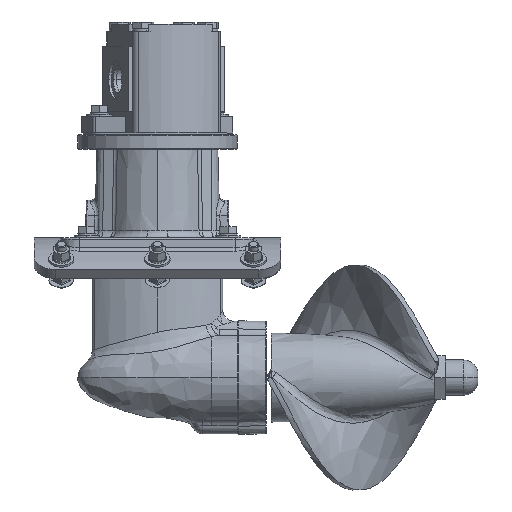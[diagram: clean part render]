
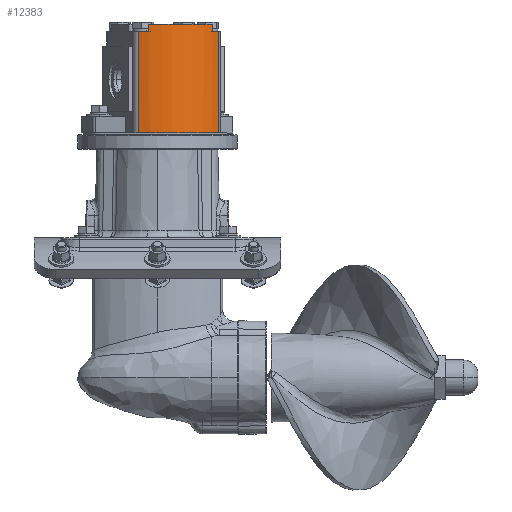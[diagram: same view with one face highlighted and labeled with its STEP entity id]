
A CAD part, top view. The second image highlights one B-rep face of the part: STEP entity #12383.
In plain terms, the highlighted cylindrical face has radius 63.093 mm (diameter 126.186 mm), a partial arc.
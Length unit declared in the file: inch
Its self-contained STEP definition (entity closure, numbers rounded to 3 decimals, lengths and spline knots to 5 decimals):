
#1245 = VECTOR ( 'NONE', #47232, 39.37008 ) ;
#1482 = VECTOR ( 'NONE', #49812, 39.37008 ) ;
#2390 = LINE ( 'NONE', #24832, #1245 ) ;
#3198 = CARTESIAN_POINT ( 'NONE',  ( -6.68456, 8.4275, 0.13722 ) ) ;
#4567 = ORIENTED_EDGE ( 'NONE', *, *, #12316, .T. ) ;
#4990 = LINE ( 'NONE', #27394, #1482 ) ;
#8992 = DIRECTION ( 'NONE',  ( 0., -1., 0. ) ) ;
#10736 = CARTESIAN_POINT ( 'NONE',  ( -4.61943, 11.9115, 1.51758 ) ) ;
#11616 = LINE ( 'NONE', #34024, #56240 ) ;
#11657 = CARTESIAN_POINT ( 'NONE',  ( -6.68456, 11.9115, 0.13722 ) ) ;
#12316 = EDGE_CURVE ( 'NONE', #27390, #59107, #2390, .T. ) ;
#12383 = ADVANCED_FACE ( 'NONE', ( #14529 ), #36897, .T. ) ;
#12760 = VERTEX_POINT ( 'NONE', #19584 ) ;
#13080 = CARTESIAN_POINT ( 'NONE',  ( -6.68456, 12.1775, 0.13722 ) ) ;
#14529 = FACE_OUTER_BOUND ( 'NONE', #36830, .T. ) ;
#14745 = VERTEX_POINT ( 'NONE', #51284 ) ;
#15931 = VERTEX_POINT ( 'NONE', #10736 ) ;
#16855 = CARTESIAN_POINT ( 'NONE',  ( -6.68456, 11.9115, 0.13722 ) ) ;
#19427 = CARTESIAN_POINT ( 'NONE',  ( -7.37926, 12.1775, 2.52207 ) ) ;
#19584 = CARTESIAN_POINT ( 'NONE',  ( -7.37926, 8.4275, 2.52207 ) ) ;
#20936 = EDGE_CURVE ( 'NONE', #27390, #15931, #64735, .T. ) ;
#21514 = ORIENTED_EDGE ( 'NONE', *, *, #67436, .T. ) ;
#21672 = CARTESIAN_POINT ( 'NONE',  ( -4.84082, 12.1775, 1.80179 ) ) ;
#22028 = EDGE_CURVE ( 'NONE', #15931, #57573, #4990, .T. ) ;
#24832 = CARTESIAN_POINT ( 'NONE',  ( -4.84082, 12.0445, 1.80179 ) ) ;
#25629 = DIRECTION ( 'NONE',  ( 0., 1., 0. ) ) ;
#26969 = CIRCLE ( 'NONE', #68027, 2.48398 ) ;
#27390 = VERTEX_POINT ( 'NONE', #53577 ) ;
#27394 = CARTESIAN_POINT ( 'NONE',  ( -4.61943, 12.1775, 1.51758 ) ) ;
#28486 = CARTESIAN_POINT ( 'NONE',  ( -7.02697, 11.9115, 2.59748 ) ) ;
#29405 = ORIENTED_EDGE ( 'NONE', *, *, #59953, .F. ) ;
#31379 = DIRECTION ( 'NONE',  ( -0.342, 0., -0.94 ) ) ;
#31381 = ORIENTED_EDGE ( 'NONE', *, *, #20936, .F. ) ;
#31400 = ORIENTED_EDGE ( 'NONE', *, *, #53417, .T. ) ;
#33119 = AXIS2_PLACEMENT_3D ( 'NONE', #16855, #39243, #61616 ) ;
#33579 = CARTESIAN_POINT ( 'NONE',  ( -4.61943, 8.4275, 1.51758 ) ) ;
#34024 = CARTESIAN_POINT ( 'NONE',  ( -7.02697, 12.0445, 2.59748 ) ) ;
#34064 = DIRECTION ( 'NONE',  ( 0., 1., 0. ) ) ;
#35468 = DIRECTION ( 'NONE',  ( 0., 1., 0. ) ) ;
#36830 = EDGE_LOOP ( 'NONE', ( #37187, #21514, #29405, #66261, #31400, #66775, #31381, #4567 ) ) ;
#36897 = CYLINDRICAL_SURFACE ( 'NONE', #61042, 2.48398 ) ;
#37187 = ORIENTED_EDGE ( 'NONE', *, *, #68557, .F. ) ;
#39243 = DIRECTION ( 'NONE',  ( 0., 1., 0. ) ) ;
#39477 = VERTEX_POINT ( 'NONE', #70642 ) ;
#41803 = DIRECTION ( 'NONE',  ( 0., -1., 0. ) ) ;
#47232 = DIRECTION ( 'NONE',  ( 0., 1., 0. ) ) ;
#48050 = DIRECTION ( 'NONE',  ( 0.342, 0., 0.94 ) ) ;
#49812 = DIRECTION ( 'NONE',  ( 0., -1., 0. ) ) ;
#50430 = CIRCLE ( 'NONE', #59769, 2.48398 ) ;
#51284 = CARTESIAN_POINT ( 'NONE',  ( -7.02697, 12.1775, 2.59748 ) ) ;
#53356 = EDGE_CURVE ( 'NONE', #39477, #12760, #69691, .T. ) ;
#53417 = EDGE_CURVE ( 'NONE', #12760, #57573, #26969, .T. ) ;
#53577 = CARTESIAN_POINT ( 'NONE',  ( -4.84082, 11.9115, 1.80179 ) ) ;
#56240 = VECTOR ( 'NONE', #56406, 39.37008 ) ;
#56406 = DIRECTION ( 'NONE',  ( 0., -1., 0. ) ) ;
#56444 = DIRECTION ( 'NONE',  ( 0.342, 0., 0.94 ) ) ;
#57573 = VERTEX_POINT ( 'NONE', #33579 ) ;
#57857 = DIRECTION ( 'NONE',  ( 0.342, 0., 0.94 ) ) ;
#59107 = VERTEX_POINT ( 'NONE', #21672 ) ;
#59288 = CARTESIAN_POINT ( 'NONE',  ( -6.68456, 12.1775, 0.13722 ) ) ;
#59769 = AXIS2_PLACEMENT_3D ( 'NONE', #13080, #35468, #57857 ) ;
#59953 = EDGE_CURVE ( 'NONE', #39477, #71379, #62270, .T. ) ;
#61042 = AXIS2_PLACEMENT_3D ( 'NONE', #59288, #8992, #31379 ) ;
#61616 = DIRECTION ( 'NONE',  ( 0.342, 0., 0.94 ) ) ;
#62171 = VECTOR ( 'NONE', #41803, 39.37008 ) ;
#62270 = CIRCLE ( 'NONE', #71607, 2.48398 ) ;
#64735 = CIRCLE ( 'NONE', #33119, 2.48398 ) ;
#66261 = ORIENTED_EDGE ( 'NONE', *, *, #53356, .T. ) ;
#66775 = ORIENTED_EDGE ( 'NONE', *, *, #22028, .F. ) ;
#67436 = EDGE_CURVE ( 'NONE', #14745, #71379, #11616, .T. ) ;
#68027 = AXIS2_PLACEMENT_3D ( 'NONE', #3198, #25629, #48050 ) ;
#68557 = EDGE_CURVE ( 'NONE', #14745, #59107, #50430, .T. ) ;
#69691 = LINE ( 'NONE', #19427, #62171 ) ;
#70642 = CARTESIAN_POINT ( 'NONE',  ( -7.37926, 11.9115, 2.52207 ) ) ;
#71379 = VERTEX_POINT ( 'NONE', #28486 ) ;
#71607 = AXIS2_PLACEMENT_3D ( 'NONE', #11657, #34064, #56444 ) ;
